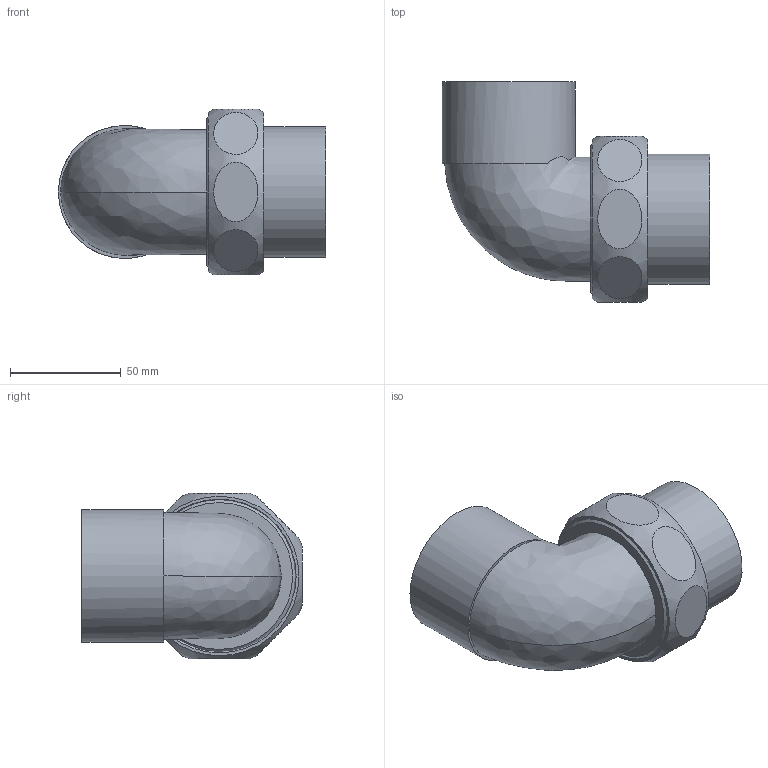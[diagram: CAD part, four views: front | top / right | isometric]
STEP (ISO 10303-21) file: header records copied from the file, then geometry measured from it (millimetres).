
FILE_DESCRIPTION((''),'2;1');
FILE_NAME('C:\Users\gomulka\Desktop\Lohse\1409654\1409654.stp','2014-08-28T09:52:58',('gomulka'),(''),'Autodesk Inventor 2009','Autodesk Inventor 2009','');
FILE_SCHEMA(('AUTOMOTIVE_DESIGN { 1 0 10303 214 1 1 1 1 }'));
Length unit declared in the file: millimetre
Products named in the file (4): 1409654; 1E4098G54238; 14381_54-238(2); 14374_238(2)
Assembly tree (3 placements, depth 2):
  1409654
    1E4098G54238
    14381_54-238(2)
    14374_238(2)
Bounding box: 120.61 x 99.42 x 74.85 mm (x, y, z)
Volume: 115565.7 mm3; surface area: 71458.3 mm2
Topology: 3 solids, 3 shells, 45 faces, 108 edges, 81 vertices
Faces by surface type: plane 21, cylinder 10, bspline 8, cone 5, torus 1
Full cylindrical faces by diameter (mm): 52 x1, 54 x2, 59 x1, 60 x1, 60.5 x1, 64.5 x1, 65.5 x1, 66.44 x1
Entity records: 5276 total; most frequent: CARTESIAN_POINT 4281, ORIENTED_EDGE 176, DIRECTION 148, EDGE_CURVE 88, EDGE_LOOP 80, VERTEX_POINT 78, AXIS2_PLACEMENT_3D 73, FACE_OUTER_BOUND 45
